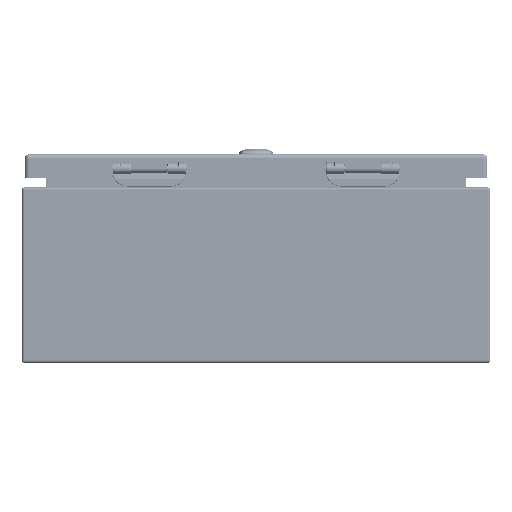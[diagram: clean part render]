
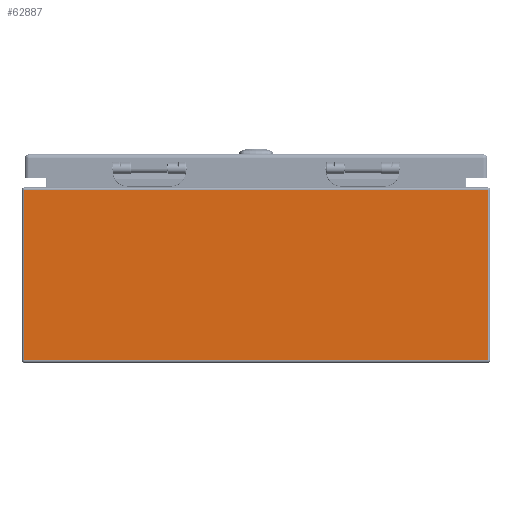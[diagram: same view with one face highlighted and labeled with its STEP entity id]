
A CAD part, left-side view. The second image highlights one B-rep face of the part: STEP entity #62887.
In plain terms, the highlighted planar face has unit normal (-1, 0, 0).
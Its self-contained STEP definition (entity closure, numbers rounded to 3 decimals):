
#6055=LINE('',#88696,#9941);
#6066=LINE('',#88737,#9952);
#6070=LINE('',#88752,#9956);
#6071=LINE('',#88753,#9957);
#9941=VECTOR('',#73483,0.394);
#9952=VECTOR('',#73532,0.394);
#9956=VECTOR('',#73550,0.394);
#9957=VECTOR('',#73551,0.394);
#14865=FACE_OUTER_BOUND('',#18805,.T.);
#18805=EDGE_LOOP('',(#41882,#41883,#41884,#41885));
#25363=VERTEX_POINT('',#88689);
#25364=VERTEX_POINT('',#88694);
#25375=VERTEX_POINT('',#88736);
#25379=VERTEX_POINT('',#88751);
#31693=EDGE_CURVE('',#25364,#25363,#6055,.T.);
#31713=EDGE_CURVE('',#25363,#25375,#6066,.T.);
#31721=EDGE_CURVE('',#25379,#25364,#6070,.T.);
#31722=EDGE_CURVE('',#25379,#25375,#6071,.T.);
#41882=ORIENTED_EDGE('',*,*,#31693,.F.);
#41883=ORIENTED_EDGE('',*,*,#31721,.F.);
#41884=ORIENTED_EDGE('',*,*,#31722,.T.);
#41885=ORIENTED_EDGE('',*,*,#31713,.F.);
#61532=PLANE('',#67725);
#62887=ADVANCED_FACE('',(#14865),#61532,.F.);
#67725=AXIS2_PLACEMENT_3D('',#88750,#73548,#73549);
#73483=DIRECTION('',(0.,-1.,0.));
#73532=DIRECTION('',(0.,0.,-1.));
#73548=DIRECTION('center_axis',(1.,0.,0.));
#73549=DIRECTION('ref_axis',(0.,0.,-1.));
#73550=DIRECTION('',(0.,0.,1.));
#73551=DIRECTION('',(0.,-1.,0.));
#88689=CARTESIAN_POINT('',(-8.,-7.916,5.916));
#88694=CARTESIAN_POINT('',(-8.,7.916,5.916));
#88696=CARTESIAN_POINT('',(-8.,-3.979,5.916));
#88736=CARTESIAN_POINT('',(-8.,-7.916,0.084));
#88737=CARTESIAN_POINT('',(-8.,-7.916,3.));
#88750=CARTESIAN_POINT('Origin',(-8.,0.,3.));
#88751=CARTESIAN_POINT('',(-8.,7.916,0.084));
#88752=CARTESIAN_POINT('',(-8.,7.916,3.));
#88753=CARTESIAN_POINT('',(-8.,4.,0.084));
